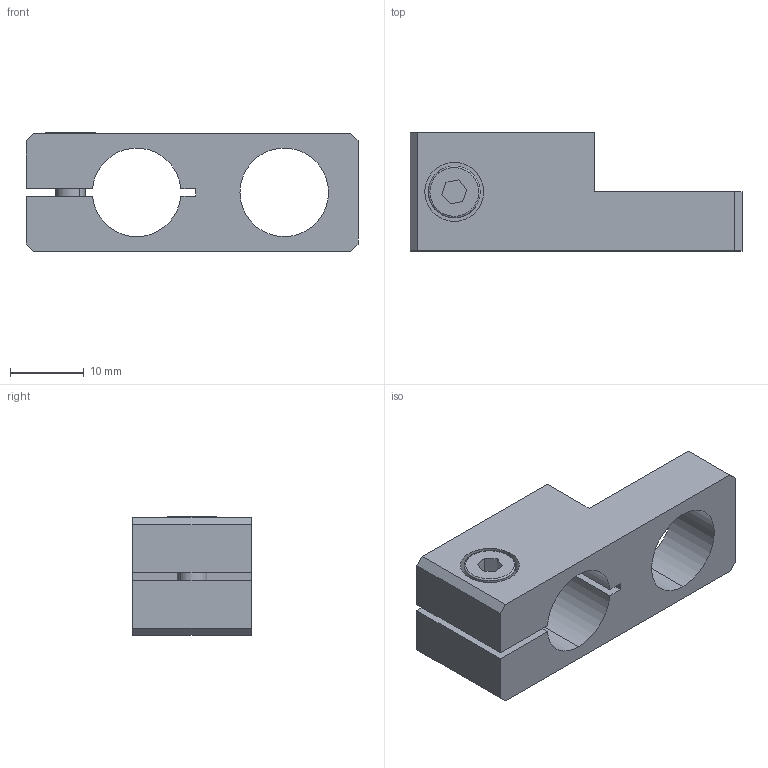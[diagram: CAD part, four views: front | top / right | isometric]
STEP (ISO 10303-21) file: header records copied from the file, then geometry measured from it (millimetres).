
FILE_DESCRIPTION (( 'STEP AP214' ), '1' );
FILE_NAME ('SMBT1-M1412.STEP', '2019-11-06T03:59:58', ( '微软用户' ), ( '微软中国' ), 'SwSTEP 2.0', 'SolidWorks 2016', '' );
FILE_SCHEMA (( 'AUTOMOTIVE_DESIGN' ));
Length unit declared in the file: millimetre
Products named in the file (1): SMBT1-M1412
Bounding box: 45 x 16 x 16.1 mm (x, y, z)
Volume: 5920.7 mm3; surface area: 4377.1 mm2
Topology: 3 solids, 3 shells, 244 faces, 701 edges, 464 vertices
Faces by surface type: plane 221, cylinder 19, cone 2, bspline 2
Entity records: 10888 total; most frequent: CARTESIAN_POINT 1534, DIRECTION 1409, ORIENTED_EDGE 1402, EDGE_CURVE 701, VECTOR 471, LINE 471, AXIS2_PLACEMENT_3D 469, VERTEX_POINT 464
